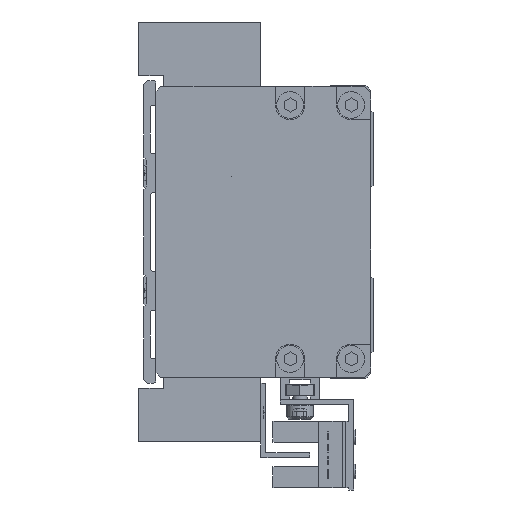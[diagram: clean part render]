
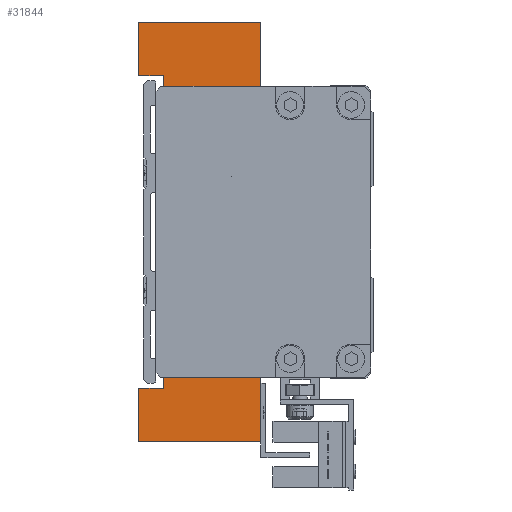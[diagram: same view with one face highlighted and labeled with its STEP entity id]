
A CAD part, left-side view. The second image highlights one B-rep face of the part: STEP entity #31844.
In plain terms, the highlighted planar face has unit normal (-1, 0, 0).
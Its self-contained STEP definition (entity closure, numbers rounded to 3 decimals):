
#176 = EDGE_CURVE ( 'NONE', #25330, #26390, #35928, .T. ) ;
#238 = CARTESIAN_POINT ( 'NONE',  ( -77., 5., -28. ) ) ;
#243 = VERTEX_POINT ( 'NONE', #2318 ) ;
#354 = EDGE_CURVE ( 'NONE', #38368, #33756, #39044, .T. ) ;
#515 = ORIENTED_EDGE ( 'NONE', *, *, #20952, .F. ) ;
#949 = DIRECTION ( 'NONE',  ( 0., -1., 0. ) ) ;
#1043 = VERTEX_POINT ( 'NONE', #30245 ) ;
#1279 = VECTOR ( 'NONE', #17787, 1000. ) ;
#1356 = EDGE_CURVE ( 'NONE', #25330, #5951, #9168, .T. ) ;
#1662 = VECTOR ( 'NONE', #16623, 1000. ) ;
#1902 = LINE ( 'NONE', #16556, #27483 ) ;
#2318 = CARTESIAN_POINT ( 'NONE',  ( -77., 9., -21. ) ) ;
#2428 = ORIENTED_EDGE ( 'NONE', *, *, #17937, .F. ) ;
#3067 = LINE ( 'NONE', #34841, #18929 ) ;
#3508 = DIRECTION ( 'NONE',  ( 0., -1., 0. ) ) ;
#3991 = CARTESIAN_POINT ( 'NONE',  ( -77., 25., -43. ) ) ;
#4345 = VECTOR ( 'NONE', #40692, 1000. ) ;
#4377 = ORIENTED_EDGE ( 'NONE', *, *, #41018, .F. ) ;
#4785 = CARTESIAN_POINT ( 'NONE',  ( -77., 0., -28. ) ) ;
#4798 = CARTESIAN_POINT ( 'NONE',  ( -77., 5., -21. ) ) ;
#4814 = EDGE_CURVE ( 'NONE', #26230, #19088, #20707, .T. ) ;
#4898 = PLANE ( 'NONE',  #24007 ) ;
#5302 = DIRECTION ( 'NONE',  ( 0., -1., 0. ) ) ;
#5613 = LINE ( 'NONE', #16921, #34269 ) ;
#5705 = CARTESIAN_POINT ( 'NONE',  ( -77., 10., 21. ) ) ;
#5875 = VECTOR ( 'NONE', #24575, 1000. ) ;
#5951 = VERTEX_POINT ( 'NONE', #19903 ) ;
#6383 = ORIENTED_EDGE ( 'NONE', *, *, #30511, .F. ) ;
#6607 = CARTESIAN_POINT ( 'NONE',  ( -77., 25., 43. ) ) ;
#6890 = LINE ( 'NONE', #7724, #4345 ) ;
#7564 = ORIENTED_EDGE ( 'NONE', *, *, #11791, .F. ) ;
#7724 = CARTESIAN_POINT ( 'NONE',  ( -77., 0., -28. ) ) ;
#7834 = CARTESIAN_POINT ( 'NONE',  ( -77., 20., 32. ) ) ;
#8217 = DIRECTION ( 'NONE',  ( 0., 0., 1. ) ) ;
#9168 = LINE ( 'NONE', #22883, #31193 ) ;
#9818 = VECTOR ( 'NONE', #35764, 1000. ) ;
#10244 = EDGE_CURVE ( 'NONE', #40024, #26230, #1902, .T. ) ;
#10432 = LINE ( 'NONE', #18022, #41190 ) ;
#10454 = CARTESIAN_POINT ( 'NONE',  ( -77., 25., 32. ) ) ;
#11013 = CARTESIAN_POINT ( 'NONE',  ( -77., 20., -32. ) ) ;
#11139 = EDGE_CURVE ( 'NONE', #19968, #20612, #18673, .T. ) ;
#11550 = CARTESIAN_POINT ( 'NONE',  ( -77., 25., 32. ) ) ;
#11676 = VERTEX_POINT ( 'NONE', #11013 ) ;
#11791 = EDGE_CURVE ( 'NONE', #243, #19968, #10432, .T. ) ;
#12729 = DIRECTION ( 'NONE',  ( 0., 1., 0. ) ) ;
#12779 = VECTOR ( 'NONE', #8217, 1000. ) ;
#13082 = VERTEX_POINT ( 'NONE', #3991 ) ;
#13125 = DIRECTION ( 'NONE',  ( 0., -1., 0. ) ) ;
#13197 = VECTOR ( 'NONE', #26152, 1000. ) ;
#14912 = LINE ( 'NONE', #19357, #1662 ) ;
#15287 = LINE ( 'NONE', #238, #40465 ) ;
#16239 = CARTESIAN_POINT ( 'NONE',  ( -77., 0., -43. ) ) ;
#16382 = DIRECTION ( 'NONE',  ( 0., -1., 0. ) ) ;
#16556 = CARTESIAN_POINT ( 'NONE',  ( -77., 20., 32. ) ) ;
#16623 = DIRECTION ( 'NONE',  ( 0., 0., 1. ) ) ;
#16921 = CARTESIAN_POINT ( 'NONE',  ( -77., 25., 43. ) ) ;
#16960 = VECTOR ( 'NONE', #38674, 1000. ) ;
#17787 = DIRECTION ( 'NONE',  ( 0., 0., -1. ) ) ;
#17937 = EDGE_CURVE ( 'NONE', #33756, #26079, #33896, .T. ) ;
#18022 = CARTESIAN_POINT ( 'NONE',  ( -77., 9., -21. ) ) ;
#18673 = LINE ( 'NONE', #4798, #1279 ) ;
#18700 = ORIENTED_EDGE ( 'NONE', *, *, #4814, .F. ) ;
#18929 = VECTOR ( 'NONE', #19090, 1000. ) ;
#19088 = VERTEX_POINT ( 'NONE', #6607 ) ;
#19090 = DIRECTION ( 'NONE',  ( 0., 1., 0. ) ) ;
#19357 = CARTESIAN_POINT ( 'NONE',  ( -77., 20., -32. ) ) ;
#19746 = ORIENTED_EDGE ( 'NONE', *, *, #41473, .F. ) ;
#19863 = DIRECTION ( 'NONE',  ( 0., 0., -1. ) ) ;
#19903 = CARTESIAN_POINT ( 'NONE',  ( -77., 9., 21. ) ) ;
#19968 = VERTEX_POINT ( 'NONE', #35018 ) ;
#20081 = VECTOR ( 'NONE', #19863, 1000. ) ;
#20083 = CARTESIAN_POINT ( 'NONE',  ( -77., 0., -43. ) ) ;
#20359 = VERTEX_POINT ( 'NONE', #28940 ) ;
#20610 = ORIENTED_EDGE ( 'NONE', *, *, #41181, .F. ) ;
#20612 = VERTEX_POINT ( 'NONE', #30471 ) ;
#20631 = CARTESIAN_POINT ( 'NONE',  ( -77., 10., -21. ) ) ;
#20707 = LINE ( 'NONE', #11550, #5875 ) ;
#20952 = EDGE_CURVE ( 'NONE', #31629, #13082, #24453, .T. ) ;
#21938 = ORIENTED_EDGE ( 'NONE', *, *, #41314, .T. ) ;
#22698 = CARTESIAN_POINT ( 'NONE',  ( -77., 0., 28. ) ) ;
#22806 = EDGE_CURVE ( 'NONE', #25930, #31629, #6890, .T. ) ;
#22883 = CARTESIAN_POINT ( 'NONE',  ( -77., 10., 21. ) ) ;
#23335 = CARTESIAN_POINT ( 'NONE',  ( -77., 0., 43. ) ) ;
#23363 = EDGE_LOOP ( 'NONE', ( #30732, #40422, #6383, #2428, #33882, #29669, #18700, #23820, #40246, #4377, #20610, #515, #28279, #19746, #24050, #7564, #21938, #38460 ) ) ;
#23820 = ORIENTED_EDGE ( 'NONE', *, *, #10244, .F. ) ;
#24007 = AXIS2_PLACEMENT_3D ( 'NONE', #41126, #24636, #37695 ) ;
#24050 = ORIENTED_EDGE ( 'NONE', *, *, #11139, .F. ) ;
#24453 = LINE ( 'NONE', #16239, #13197 ) ;
#24548 = CARTESIAN_POINT ( 'NONE',  ( -77., 25., -43. ) ) ;
#24575 = DIRECTION ( 'NONE',  ( 0., 0., 1. ) ) ;
#24636 = DIRECTION ( 'NONE',  ( 1., 0., 0. ) ) ;
#25330 = VERTEX_POINT ( 'NONE', #31005 ) ;
#25686 = EDGE_CURVE ( 'NONE', #19088, #38368, #5613, .T. ) ;
#25930 = VERTEX_POINT ( 'NONE', #4785 ) ;
#26079 = VERTEX_POINT ( 'NONE', #38292 ) ;
#26152 = DIRECTION ( 'NONE',  ( 0., 1., 0. ) ) ;
#26230 = VERTEX_POINT ( 'NONE', #10454 ) ;
#26390 = VERTEX_POINT ( 'NONE', #20631 ) ;
#26605 = VECTOR ( 'NONE', #949, 1000. ) ;
#27483 = VECTOR ( 'NONE', #12729, 1000. ) ;
#28279 = ORIENTED_EDGE ( 'NONE', *, *, #22806, .F. ) ;
#28756 = DIRECTION ( 'NONE',  ( 0., 0., -1. ) ) ;
#28940 = CARTESIAN_POINT ( 'NONE',  ( -77., 25., -32. ) ) ;
#29669 = ORIENTED_EDGE ( 'NONE', *, *, #25686, .F. ) ;
#29773 = VECTOR ( 'NONE', #28756, 1000. ) ;
#30073 = EDGE_CURVE ( 'NONE', #11676, #40024, #14912, .T. ) ;
#30245 = CARTESIAN_POINT ( 'NONE',  ( -77., 5., 21. ) ) ;
#30471 = CARTESIAN_POINT ( 'NONE',  ( -77., 5., -28. ) ) ;
#30511 = EDGE_CURVE ( 'NONE', #26079, #1043, #36438, .T. ) ;
#30732 = ORIENTED_EDGE ( 'NONE', *, *, #1356, .T. ) ;
#31005 = CARTESIAN_POINT ( 'NONE',  ( -77., 10., 21. ) ) ;
#31193 = VECTOR ( 'NONE', #16382, 1000. ) ;
#31629 = VERTEX_POINT ( 'NONE', #20083 ) ;
#31749 = VECTOR ( 'NONE', #13125, 1000. ) ;
#31844 = ADVANCED_FACE ( 'NONE', ( #42290 ), #4898, .F. ) ;
#33396 = DIRECTION ( 'NONE',  ( 0., -1., 0. ) ) ;
#33756 = VERTEX_POINT ( 'NONE', #22698 ) ;
#33882 = ORIENTED_EDGE ( 'NONE', *, *, #354, .F. ) ;
#33896 = LINE ( 'NONE', #35911, #9818 ) ;
#34269 = VECTOR ( 'NONE', #33396, 1000. ) ;
#34714 = CARTESIAN_POINT ( 'NONE',  ( -77., 9., 21. ) ) ;
#34841 = CARTESIAN_POINT ( 'NONE',  ( -77., 9., -21. ) ) ;
#35018 = CARTESIAN_POINT ( 'NONE',  ( -77., 5., -21. ) ) ;
#35715 = EDGE_CURVE ( 'NONE', #5951, #1043, #36831, .T. ) ;
#35764 = DIRECTION ( 'NONE',  ( 0., 1., 0. ) ) ;
#35825 = LINE ( 'NONE', #24548, #12779 ) ;
#35886 = CARTESIAN_POINT ( 'NONE',  ( -77., 25., -32. ) ) ;
#35911 = CARTESIAN_POINT ( 'NONE',  ( -77., 0., 28. ) ) ;
#35928 = LINE ( 'NONE', #5705, #16960 ) ;
#36438 = LINE ( 'NONE', #41257, #29773 ) ;
#36831 = LINE ( 'NONE', #34714, #26605 ) ;
#37695 = DIRECTION ( 'NONE',  ( 0., 0., -1. ) ) ;
#38292 = CARTESIAN_POINT ( 'NONE',  ( -77., 5., 28. ) ) ;
#38368 = VERTEX_POINT ( 'NONE', #23335 ) ;
#38460 = ORIENTED_EDGE ( 'NONE', *, *, #176, .F. ) ;
#38674 = DIRECTION ( 'NONE',  ( 0., 0., -1. ) ) ;
#39044 = LINE ( 'NONE', #39225, #20081 ) ;
#39225 = CARTESIAN_POINT ( 'NONE',  ( -77., 0., 43. ) ) ;
#40024 = VERTEX_POINT ( 'NONE', #7834 ) ;
#40246 = ORIENTED_EDGE ( 'NONE', *, *, #30073, .F. ) ;
#40422 = ORIENTED_EDGE ( 'NONE', *, *, #35715, .T. ) ;
#40465 = VECTOR ( 'NONE', #3508, 1000. ) ;
#40506 = LINE ( 'NONE', #35886, #31749 ) ;
#40692 = DIRECTION ( 'NONE',  ( 0., 0., -1. ) ) ;
#41018 = EDGE_CURVE ( 'NONE', #20359, #11676, #40506, .T. ) ;
#41126 = CARTESIAN_POINT ( 'NONE',  ( -77., 10., 0. ) ) ;
#41181 = EDGE_CURVE ( 'NONE', #13082, #20359, #35825, .T. ) ;
#41190 = VECTOR ( 'NONE', #5302, 1000. ) ;
#41257 = CARTESIAN_POINT ( 'NONE',  ( -77., 5., 28. ) ) ;
#41314 = EDGE_CURVE ( 'NONE', #243, #26390, #3067, .T. ) ;
#41473 = EDGE_CURVE ( 'NONE', #20612, #25930, #15287, .T. ) ;
#42290 = FACE_OUTER_BOUND ( 'NONE', #23363, .T. ) ;
